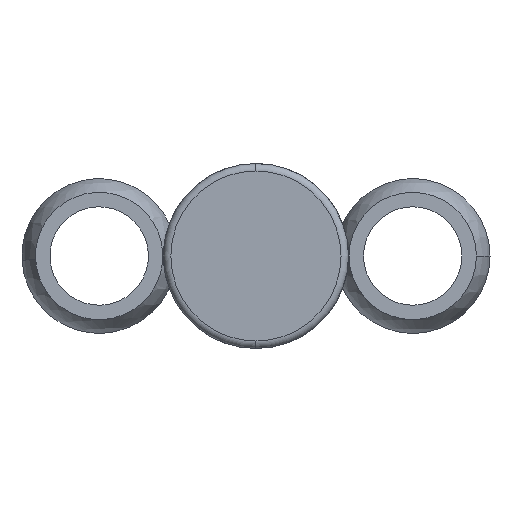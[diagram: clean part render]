
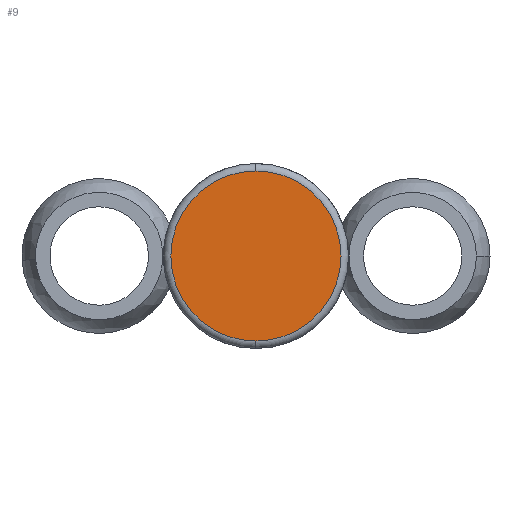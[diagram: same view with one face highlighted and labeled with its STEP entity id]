
A CAD part, front view. The second image highlights one B-rep face of the part: STEP entity #9.
In plain terms, the highlighted planar face has unit normal (0, -1, 0).
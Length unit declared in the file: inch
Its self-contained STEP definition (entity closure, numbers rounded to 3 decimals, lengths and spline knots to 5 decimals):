
#9 = ADVANCED_FACE ( 'NONE', ( #980 ), #174, .F. ) ;
#27 = CARTESIAN_POINT ( 'NONE',  ( 0., -1.26, 0.34402 ) ) ;
#174 = PLANE ( 'NONE',  #1054 ) ;
#178 = VERTEX_POINT ( 'NONE', #27 ) ;
#185 = DIRECTION ( 'NONE',  ( 0., 1., 0. ) ) ;
#243 = EDGE_CURVE ( 'NONE', #178, #1245, #693, .T. ) ;
#278 = DIRECTION ( 'NONE',  ( 0., 0., 1. ) ) ;
#476 = ORIENTED_EDGE ( 'NONE', *, *, #758, .T. ) ;
#606 = CARTESIAN_POINT ( 'NONE',  ( 0., -1.26, -0.34402 ) ) ;
#625 = DIRECTION ( 'NONE',  ( 0., -1., 0. ) ) ;
#649 = AXIS2_PLACEMENT_3D ( 'NONE', #808, #1299, #278 ) ;
#664 = CIRCLE ( 'NONE', #1500, 0.34402 ) ;
#693 = CIRCLE ( 'NONE', #649, 0.34402 ) ;
#704 = DIRECTION ( 'NONE',  ( 0., 0., 1. ) ) ;
#758 = EDGE_CURVE ( 'NONE', #1245, #178, #664, .T. ) ;
#808 = CARTESIAN_POINT ( 'NONE',  ( 0., -1.26, 0. ) ) ;
#951 = CARTESIAN_POINT ( 'NONE',  ( 0., -1.26, 0. ) ) ;
#980 = FACE_OUTER_BOUND ( 'NONE', #1144, .T. ) ;
#1054 = AXIS2_PLACEMENT_3D ( 'NONE', #951, #185, #704 ) ;
#1144 = EDGE_LOOP ( 'NONE', ( #1409, #476 ) ) ;
#1213 = DIRECTION ( 'NONE',  ( 0., 0., 1. ) ) ;
#1245 = VERTEX_POINT ( 'NONE', #606 ) ;
#1299 = DIRECTION ( 'NONE',  ( 0., -1., 0. ) ) ;
#1364 = CARTESIAN_POINT ( 'NONE',  ( 0., -1.26, 0. ) ) ;
#1409 = ORIENTED_EDGE ( 'NONE', *, *, #243, .T. ) ;
#1500 = AXIS2_PLACEMENT_3D ( 'NONE', #1364, #625, #1213 ) ;
